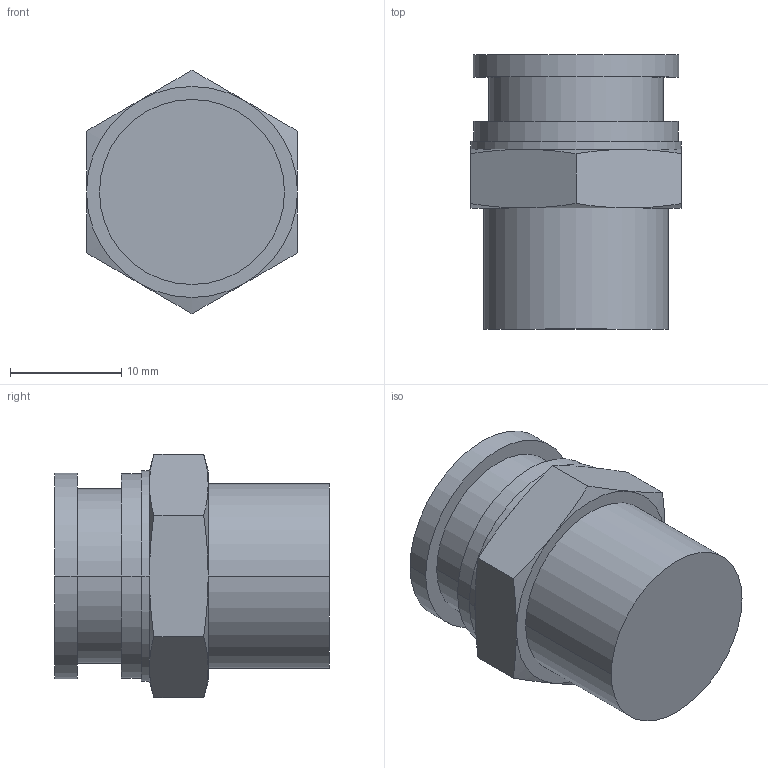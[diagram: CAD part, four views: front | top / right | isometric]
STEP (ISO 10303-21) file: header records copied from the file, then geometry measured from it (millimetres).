
FILE_DESCRIPTION( ( '' ), '1' );
FILE_NAME( 'G:/SMC狟婥/KQB2H12-03S.stp', '2023-03-07T02:28:43', ( '' ), ( '' ), ' ', ' ', ' ' );
FILE_SCHEMA( ( 'CONFIG_CONTROL_DESIGN' ) );
Length unit declared in the file: millimetre
Products named in the file (1): 1
Bounding box: 19 x 24.7 x 21.94 mm (x, y, z)
Volume: 3911.6 mm3; surface area: 2839.8 mm2
Topology: 1 solids, 1 shells, 37 faces, 76 edges, 46 vertices
Faces by surface type: plane 13, cylinder 12, cone 12
Entity records: 992 total; most frequent: CARTESIAN_POINT 208, DIRECTION 162, ORIENTED_EDGE 152, EDGE_CURVE 76, AXIS2_PLACEMENT_3D 72, VERTEX_POINT 46, EDGE_LOOP 42, ADVANCED_FACE 37
